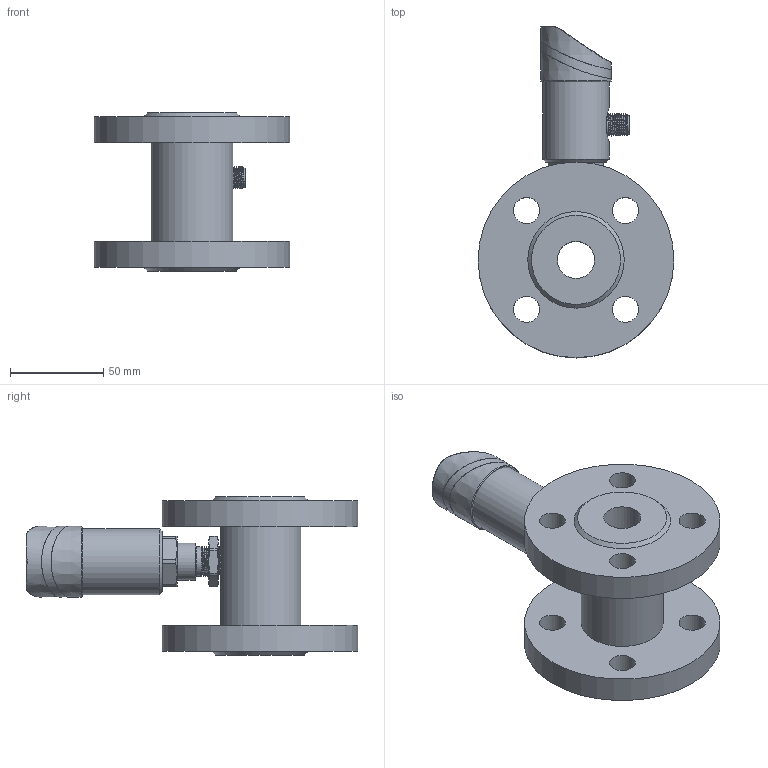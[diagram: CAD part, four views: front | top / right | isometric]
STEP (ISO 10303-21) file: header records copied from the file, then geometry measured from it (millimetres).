
FILE_DESCRIPTION( (''), '2;1');
FILE_NAME( 'QTKE_DN20_flange.step', '2024-10-14T14:54:58+08:00', (''), (''), '', '', '');
FILE_SCHEMA (('AUTOMOTIVE_DESIGN { 1 0 10303 214 3 1 1 1 }'));
Length unit declared in the file: millimetre
Products named in the file (1): QTKE DN20_flange
Bounding box: 105 x 178 x 85 mm (x, y, z)
Volume: 350408.6 mm3; surface area: 82663.3 mm2
Topology: 5 solids, 6 shells, 722 faces, 1882 edges, 1231 vertices
Faces by surface type: plane 269, extrusion 141, cylinder 138, cone 72, bspline 59, torus 32, sphere 11
Full cylindrical faces by diameter (mm): 1.689 x1, 2.7 x3, 12 x1, 14 x8, 15.9 x1, 16.5 x2, 20 x2, 23 x3, 26 x5, 35.5 x1, 37.001 x1, 105 x2
Entity records: 32854 total; most frequent: CARTESIAN_POINT 14843, ORIENTED_EDGE 3568, DIRECTION 2828, EDGE_CURVE 1784, VERTEX_POINT 1196, VECTOR 958, AXIS2_PLACEMENT_3D 935, EDGE_LOOP 866
